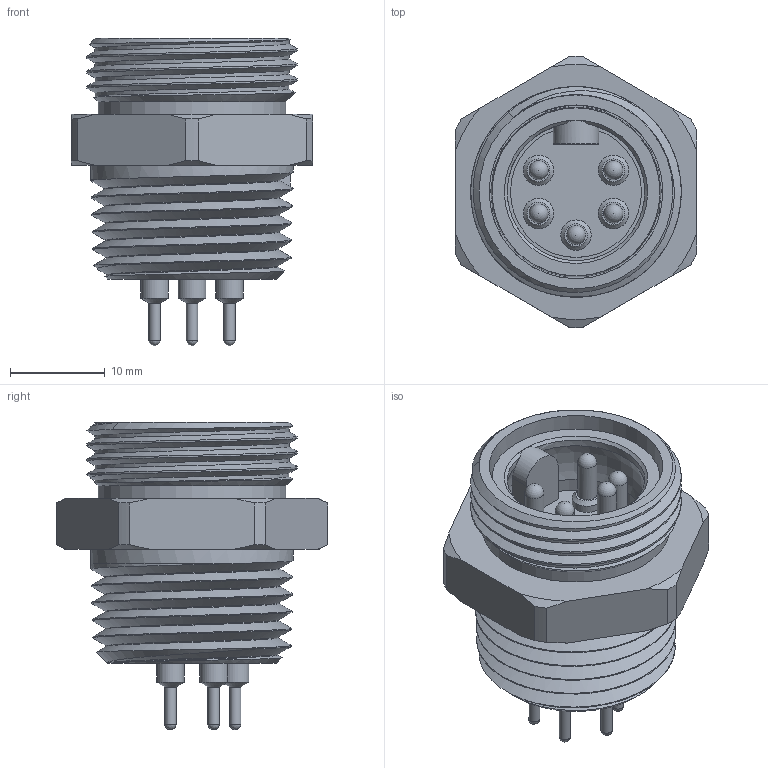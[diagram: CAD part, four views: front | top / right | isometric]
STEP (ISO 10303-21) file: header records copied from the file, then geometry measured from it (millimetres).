
FILE_DESCRIPTION (( 'STEP AP203' ), '1' );
FILE_NAME ('CM03A-R5P-D-0(R1).STEP', '2022-04-06T07:54:14', ( '' ), ( '' ), 'SwSTEP 2.0', 'SolidWorks 2018', '' );
FILE_SCHEMA (( 'CONFIG_CONTROL_DESIGN' ));
Length unit declared in the file: millimetre
Products named in the file (1): CM03A-R5P-D-0(R1)
Bounding box: 25.4 x 28.6 x 32.4 mm (x, y, z)
Volume: 8125.4 mm3; surface area: 5208.2 mm2
Topology: 1 solids, 1 shells, 111 faces, 289 edges, 184 vertices
Faces by surface type: cylinder 37, plane 28, cone 28, sphere 10, bspline 6, torus 2
Full cylindrical faces by diameter (mm): 1.2 x5, 2.01 x5, 2.9 x5, 3.2 x5, 17.7 x1, 18.3 x1, 19.8 x1, 21.34 x1
Entity records: 6708 total; most frequent: CARTESIAN_POINT 4418, DIRECTION 449, ORIENTED_EDGE 406, EDGE_CURVE 203, AXIS2_PLACEMENT_3D 200, EDGE_LOOP 167, VERTEX_POINT 152, FACE_OUTER_BOUND 134
